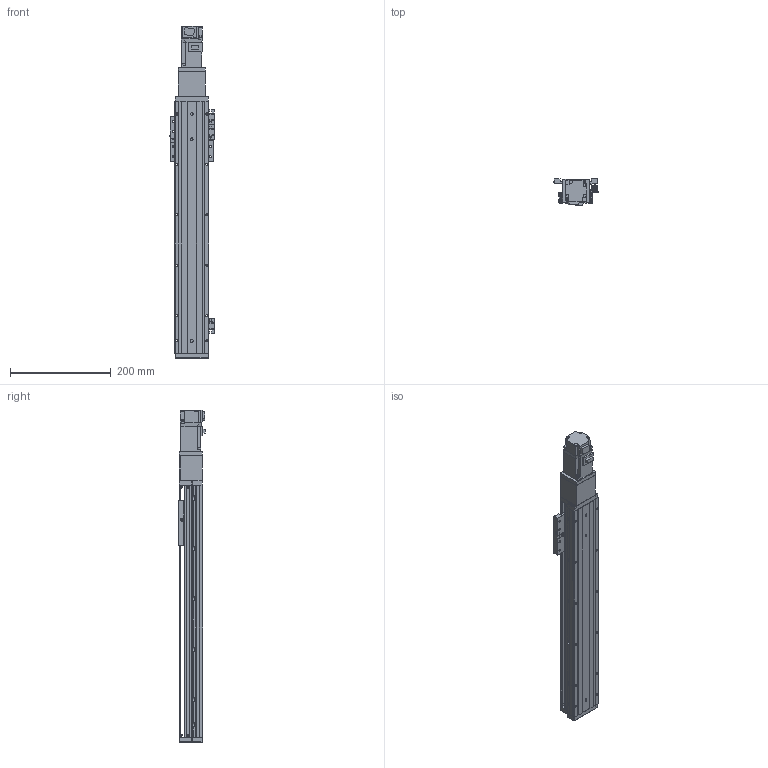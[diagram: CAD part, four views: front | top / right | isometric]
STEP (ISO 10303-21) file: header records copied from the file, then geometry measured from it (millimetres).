
FILE_DESCRIPTION (( 'STEP AP203' ), '1' );
FILE_NAME ('KTHAL60-350-BC-M10-C4L.step', '2022-03-19T08:34:49', ( '微软用户' ), ( '微软中国' ), 'SwSTEP 2.0', 'SolidWorks 2020', '' );
FILE_SCHEMA (( 'CONFIG_CONTROL_DESIGN' ));
Length unit declared in the file: millimetre
Products named in the file (18): EE_SX911P_R; CTHA60-006-2_CTHA60-006-2; KTHA60-001_500; CTHA60-017; CTHA60-027; KTHLA60-002; CTHA60-021; CTHA60-013; KTHA60-004; GBT 70.1-M4×16; HG-KR13（三菱）; KTHA60-005; GBT77-2000M3-3; KTHAL60-350-BC-M10-C4L; GB¨uT 70.2-M3¡Á5_M3¡Á6; GBT 70.1-M3℅6; GBT 70.3-M3℅6; CTHA60-016
Assembly tree (50 placements, depth 2):
  KTHAL60-350-BC-M10-C4L
    KTHA60-001_500
    KTHLA60-002
    KTHA60-004
    KTHA60-005
    GB¨uT 70.2-M3¡Á5_M3¡Á6  x5
    GBT 70.3-M3℅6  x6
    EE_SX911P_R  x3
    CTHA60-017  x3
    CTHA60-021  x2
    GBT 70.1-M4×16  x10
    GBT77-2000M3-3  x6
    GBT 70.1-M3℅6  x6
    CTHA60-016
    CTHA60-006-2_CTHA60-006-2
    CTHA60-027
    CTHA60-013
    HG-KR13（三菱）
Bounding box: 87.82 x 53.3 x 658.6 mm (x, y, z)
Volume: 1196515.2 mm3; surface area: 314575.9 mm2
Topology: 53 solids, 53 shells, 2180 faces, 5162 edges, 3165 vertices
Faces by surface type: plane 1270, cylinder 519, cone 291, torus 86, sphere 14
Entity records: 36066 total; most frequent: CARTESIAN_POINT 5914, DIRECTION 5800, ORIENTED_EDGE 5528, EDGE_CURVE 2764, VECTOR 1970, LINE 1970, AXIS2_PLACEMENT_3D 1915, VERTEX_POINT 1733
